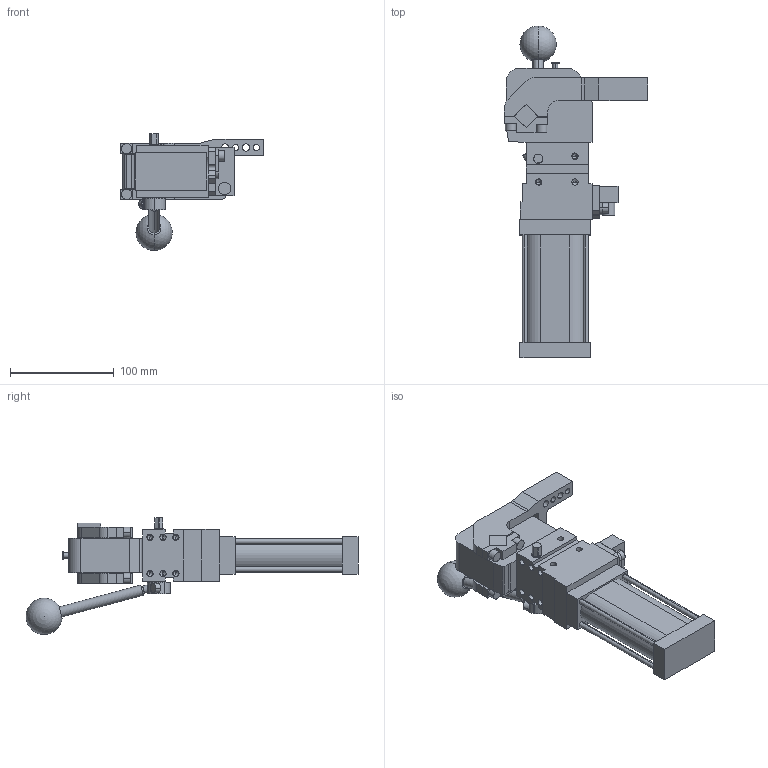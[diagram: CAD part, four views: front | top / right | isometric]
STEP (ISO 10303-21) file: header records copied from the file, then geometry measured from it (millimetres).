
FILE_DESCRIPTION (( 'STEP AP214' ), '1' );
FILE_NAME ('cplm40lbv1ssi1g_31.STEP', '2021-05-25T12:06:38', ( '' ), ( '' ), 'SwSTEP 2.0', 'SolidWorks 2021', '' );
FILE_SCHEMA (( 'AUTOMOTIVE_DESIGN' ));
Length unit declared in the file: millimetre
Products named in the file (6): blocchetto_VEP_0_cpl40; cplm40lbv1ssi1g_31; meccanica_cplm40; piastra_blocchetto_cpl40; comando_manuale_cplm_40; leva_v1d_cpl40
Assembly tree (5 placements, depth 2):
  cplm40lbv1ssi1g_31
    meccanica_cplm40
    leva_v1d_cpl40
    blocchetto_VEP_0_cpl40
    piastra_blocchetto_cpl40
    comando_manuale_cplm_40
Bounding box: 138 x 319.99 x 112.66 mm (x, y, z)
Volume: 808327.5 mm3; surface area: 126749 mm2
Topology: 6 solids, 6 shells, 467 faces, 1201 edges, 757 vertices
Faces by surface type: plane 259, cylinder 160, cone 46, sphere 2
Entity records: 15517 total; most frequent: CARTESIAN_POINT 2501, DIRECTION 2476, ORIENTED_EDGE 2308, EDGE_CURVE 1154, AXIS2_PLACEMENT_3D 851, LINE 774, VECTOR 774, VERTEX_POINT 754
